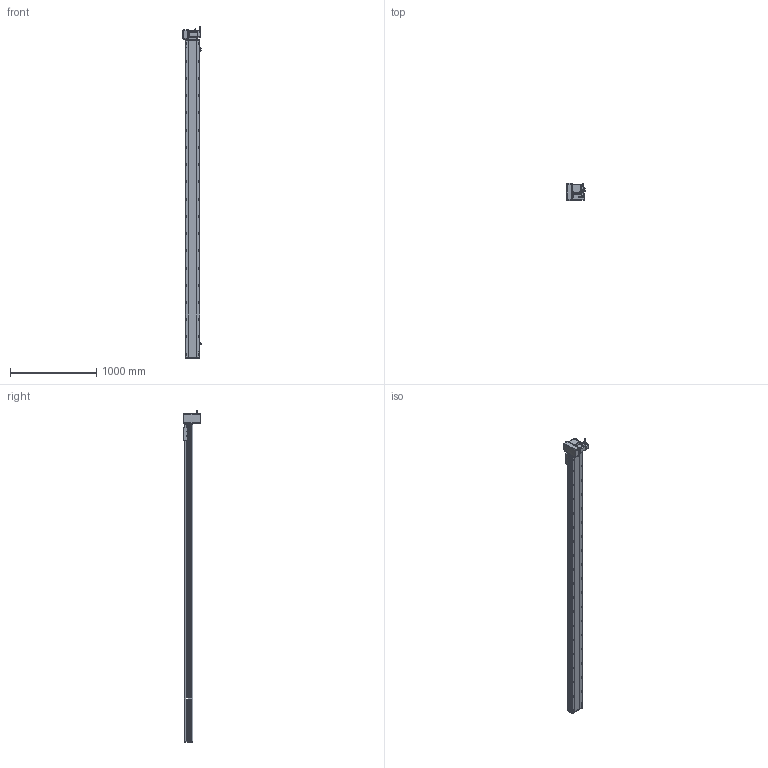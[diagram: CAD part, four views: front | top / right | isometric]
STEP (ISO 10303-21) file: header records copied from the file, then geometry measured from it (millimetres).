
FILE_DESCRIPTION (( 'STEP AP214' ), '1' );
FILE_NAME ('RTB17S-XX-3400-LM-M75-C4.STEP', '2025-12-12T00:52:07', ( '' ), ( '' ), 'SwSTEP 2.0', 'SolidWorks 2018', '' );
FILE_SCHEMA (( 'AUTOMOTIVE_DESIGN' ));
Length unit declared in the file: millimetre
Products named in the file (15): RTB17S-L-001-耜醱啣^RTB17S-XX-XX-LM-M75-C4; RTB17S-L-004-賑釱^RTB17S-賑釱_RTB17S-XX-XX-LM-M75-C4; RTB22S-GY-017P^RTB17S-LM-々湍釱蚾饜-750W_RTB17S-XX-XX-LM-M75-C4; EE672^RTB17S-XX-XX-LM-M75-C4; RTB22S-GY-008-M75--萇儂啣^RTB17S-LM-々湍釱蚾饜-750W_RTB17S-XX-XX-LM-M75-C4; RTB17-R-011菁釱^RTB17S-XX-XX-LM-M75-C4; RTB22S-GY-018P^RTB17S-LM-々湍釱蚾饜-750W_RTB17S-XX-XX-LM-M75-C4; RTB17S-LM-々湍釱蚾饜-750W^RTB17S-XX-XX-LM-M75-C4; RTB17S-XX-3400-LM-M75-C4; RTH13-BL-012覜茼え俋离^RTB17S-賑釱_RTB17S-XX-XX-LM-M75-C4; 750W萇儂^RTB17S-XX-XX-LM-M75-C4; RTB22S-GY-005P^RTB17S-LM-々湍釱蚾饜-750W_RTB17S-XX-XX-LM-M75-C4; RTB17S-賑釱^RTB17S-XX-XX-LM-M75-C4; RTB17S-L-014-T20-P75--々湍釱^RTB17S-LM-々湍釱蚾饜-750W_RTB17S-XX-XX-LM-M75-C4; RTB17S-L-007奻裔^RTB17S-XX-XX-LM-M75-C4
Assembly tree (17 placements, depth 3):
  RTB17S-XX-3400-LM-M75-C4
    RTB17-R-011菁釱^RTB17S-XX-XX-LM-M75-C4
    EE672^RTB17S-XX-XX-LM-M75-C4  x3
    RTB17S-L-001-耜醱啣^RTB17S-XX-XX-LM-M75-C4
    RTB17S-賑釱^RTB17S-XX-XX-LM-M75-C4
      RTB17S-L-004-賑釱^RTB17S-賑釱_RTB17S-XX-XX-LM-M75-C4
      RTH13-BL-012覜茼え俋离^RTB17S-賑釱_RTB17S-XX-XX-LM-M75-C4
    RTB17S-L-007奻裔^RTB17S-XX-XX-LM-M75-C4
    750W萇儂^RTB17S-XX-XX-LM-M75-C4
    RTB17S-LM-々湍釱蚾饜-750W^RTB17S-XX-XX-LM-M75-C4
      RTB17S-L-014-T20-P75--々湍釱^RTB17S-LM-々湍釱蚾饜-750W_RTB17S-XX-XX-LM-M75-C4
      RTB22S-GY-005P^RTB17S-LM-々湍釱蚾饜-750W_RTB17S-XX-XX-LM-M75-C4
      RTB22S-GY-017P^RTB17S-LM-々湍釱蚾饜-750W_RTB17S-XX-XX-LM-M75-C4  x2
      RTB22S-GY-008-M75--萇儂啣^RTB17S-LM-々湍釱蚾饜-750W_RTB17S-XX-XX-LM-M75-C4
      RTB22S-GY-018P^RTB17S-LM-々湍釱蚾饜-750W_RTB17S-XX-XX-LM-M75-C4
Bounding box: 210.4 x 200 x 3852.2 mm (x, y, z)
Volume: 27206541.4 mm3; surface area: 5018009.9 mm2
Topology: 17 solids, 17 shells, 2281 faces, 6430 edges, 4166 vertices
Faces by surface type: plane 994, cylinder 871, bspline 294, cone 110, sphere 8, torus 4
Entity records: 67318 total; most frequent: CARTESIAN_POINT 20094, ORIENTED_EDGE 9704, DIRECTION 8942, EDGE_CURVE 4852, AXIS2_PLACEMENT_3D 3186, VERTEX_POINT 3170, VECTOR 2570, LINE 2570
